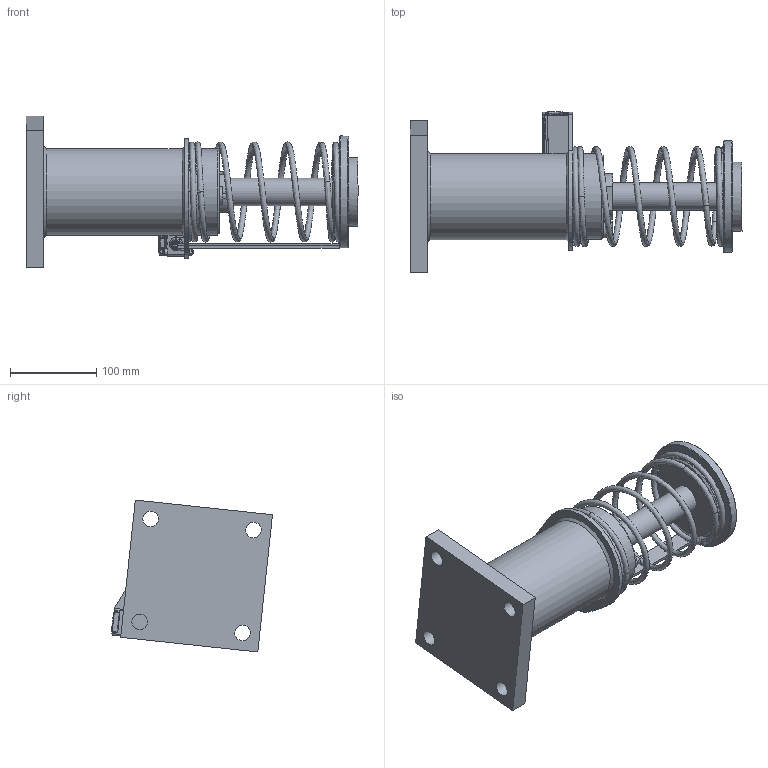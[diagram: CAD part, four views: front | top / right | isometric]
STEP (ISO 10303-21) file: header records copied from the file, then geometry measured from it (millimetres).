
FILE_DESCRIPTION(/* description */ ('Diese Zeichnung ist Eigentum der Henning GmbH & Co. KG und darf nur mit Genehmigung an dritte weitergegeben werden Henning GmbH & Co. KG'),/* implementation_level */ '2;1');
FILE_NAME(/* name */ '\\dc1\Dokumentenverwaltung\Fertigung\Liftpuffer\97400000-97699999-LIFTPUFFER CAD\3-D Zeichnungen\Entwicklung\Liftpuffer Low-Cost\HPL-40-120\HPL-40-120-Kunde.stp',/* time_stamp */ '2019-04-08T16:12:01+02:00',/* author */ ('Baecker'),/* organization */ ('Henning GmbH & Co. KG'),/* preprocessor_version */ 'ST-DEVELOPER v17.2',/* originating_system */ 'Autodesk Inventor 2019',/* authorisation */ '');
FILE_SCHEMA (('AUTOMOTIVE_DESIGN { 1 0 10303 214 3 1 1 }'));
Products named in the file (1): HPL-40-120-Kunde
Bounding box: 385 x 186.7 x 176.1 mm (x, y, z)
Volume: 2622549.3 mm3; surface area: 277694.8 mm2
Topology: 2 solids, 2 shells, 2100 faces, 5900 edges, 3830 vertices
Faces by surface type: plane 1119, cylinder 471, bspline 306, cone 89, torus 59, sphere 56
Full cylindrical faces by diameter (mm): 1.4 x1, 1.7 x1, 2 x1, 2.15 x2, 2.5 x2, 3 x2, 3.25 x1, 3.6 x1, 3.95 x2, 4 x5, 4.2 x2, 4.3 x2, 5 x1, 5.4 x1, 6 x2, 6.6 x2, 7 x3, 7.53 x1, 8 x1, 8.3 x1, 8.4 x1, 9 x1, 10 x1, 10.042 x1, 11 x1, 11.2 x1, 11.4 x1, 13 x1, 16 x1, 18 x5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
Entity records: 81397 total; most frequent: CARTESIAN_POINT 25372, ORIENTED_EDGE 11782, DIRECTION 10700, EDGE_CURVE 5891, VERTEX_POINT 3830, LINE 3584, VECTOR 3584, AXIS2_PLACEMENT_3D 3558
